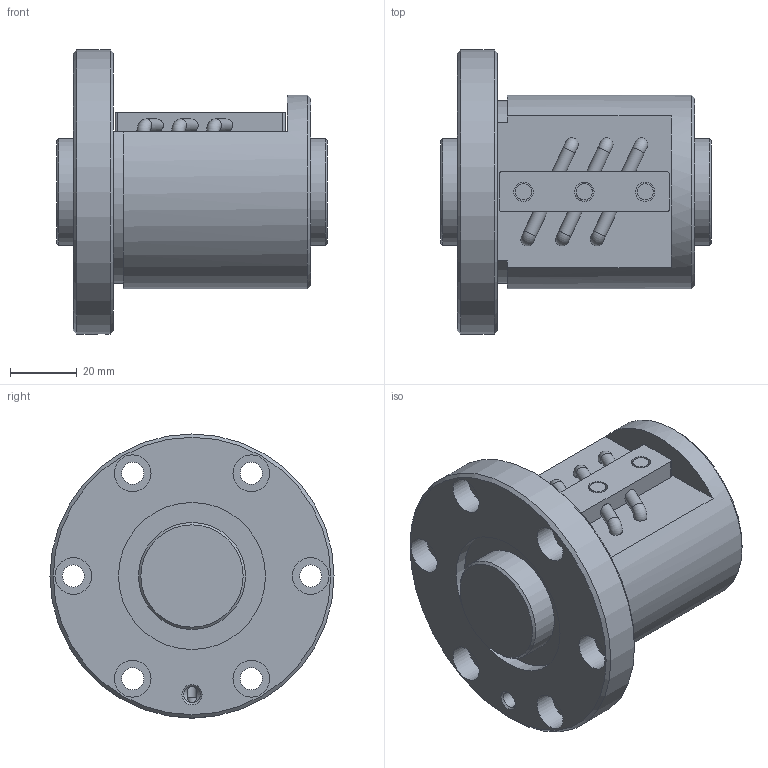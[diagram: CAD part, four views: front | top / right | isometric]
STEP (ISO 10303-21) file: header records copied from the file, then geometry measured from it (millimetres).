
FILE_DESCRIPTION(/* description */ ('STEP AP203'),/* implementation_level */ '2;1');
FILE_NAME(/* name */ 'BNF3205V-7.5RRG1+81LC0_000_rev',/* time_stamp */ '2024-08-06T07:36:33+02:00',/* author */ ('License CC BY-ND 4.0'),/* organization */ ('CADENAS'),/* preprocessor_version */ 'ST-DEVELOPER v19.3',/* originating_system */ 'PARTsolutions',/* authorisation */ ' ');
FILE_SCHEMA (('CONFIG_CONTROL_DESIGN'));
Length unit declared in the file: millimetre
Products named in the file (3): BNF3205V-7.5RRG1+81LC0_000_rev; BNF 3205-7.5RR000 Shaft; BNF 3205-7.5RR Nut
Assembly tree (2 placements, depth 2):
  BNF3205V-7.5RRG1+81LC0_000_rev
    BNF 3205-7.5RR000 Shaft
    BNF 3205-7.5RR Nut
Bounding box: 81 x 85 x 85 mm (x, y, z)
Volume: 206746.7 mm3; surface area: 44579.1 mm2
Topology: 2 solids, 2 shells, 85 faces, 198 edges, 131 vertices
Faces by surface type: cylinder 41, plane 30, cone 8, torus 6
Full cylindrical faces by diameter (mm): 3 x2, 3.865 x6, 4.8 x3, 4.917 x1, 5.8 x3, 6.6 x6, 11 x6, 32 x2, 44 x2, 58 x1, 85 x1
Entity records: 2221 total; most frequent: CARTESIAN_POINT 400, DIRECTION 386, ORIENTED_EDGE 262, AXIS2_PLACEMENT_3D 179, EDGE_LOOP 174, FACE_BOUND 174, EDGE_CURVE 131, VERTEX_POINT 111
